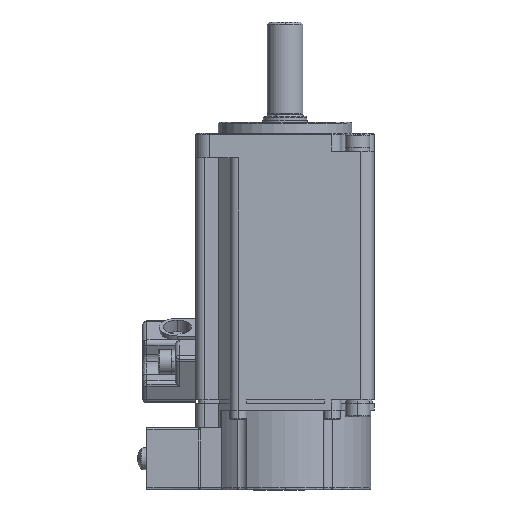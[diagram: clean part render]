
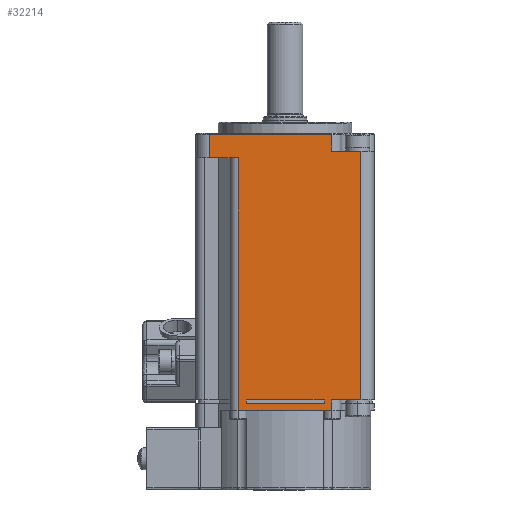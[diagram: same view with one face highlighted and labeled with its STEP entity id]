
A CAD part, left-side view. The second image highlights one B-rep face of the part: STEP entity #32214.
In plain terms, the highlighted planar face has unit normal (-1, 0, 0).
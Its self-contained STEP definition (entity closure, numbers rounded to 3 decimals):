
#595 = VERTEX_POINT ( 'NONE', #33683 ) ;
#745 = PLANE ( 'NONE',  #13067 ) ;
#1030 = EDGE_CURVE ( 'NONE', #19568, #11183, #25718, .T. ) ;
#1085 = EDGE_CURVE ( 'NONE', #22024, #595, #24155, .T. ) ;
#1090 = EDGE_CURVE ( 'NONE', #19568, #22024, #24087, .T. ) ;
#1495 = VECTOR ( 'NONE', #36649, 1000. ) ;
#1574 = LINE ( 'NONE', #2878, #1495 ) ;
#2215 = CARTESIAN_POINT ( 'NONE',  ( -20., -10.5, 24.9 ) ) ;
#2878 = CARTESIAN_POINT ( 'NONE',  ( -20., 12.5, -37. ) ) ;
#2906 = VERTEX_POINT ( 'NONE', #29832 ) ;
#3241 = ORIENTED_EDGE ( 'NONE', *, *, #26807, .T. ) ;
#3697 = EDGE_LOOP ( 'NONE', ( #8447, #17979, #20319, #31470 ) ) ;
#4952 = CARTESIAN_POINT ( 'NONE',  ( -20., 17., 19.6 ) ) ;
#5148 = DIRECTION ( 'NONE',  ( 0., 1., 0. ) ) ;
#5360 = ORIENTED_EDGE ( 'NONE', *, *, #28280, .T. ) ;
#5420 = VERTEX_POINT ( 'NONE', #2215 ) ;
#5878 = ORIENTED_EDGE ( 'NONE', *, *, #1085, .F. ) ;
#7411 = DIRECTION ( 'NONE',  ( 0., 1., 0. ) ) ;
#7550 = DIRECTION ( 'NONE',  ( 0., 0., 1. ) ) ;
#7894 = ORIENTED_EDGE ( 'NONE', *, *, #1090, .F. ) ;
#8447 = ORIENTED_EDGE ( 'NONE', *, *, #27132, .T. ) ;
#8714 = DIRECTION ( 'NONE',  ( 0., 0., -1. ) ) ;
#8759 = CARTESIAN_POINT ( 'NONE',  ( -20., -10.5, -35.5 ) ) ;
#9646 = CARTESIAN_POINT ( 'NONE',  ( -20., 12.5, 0. ) ) ;
#9825 = ORIENTED_EDGE ( 'NONE', *, *, #26598, .T. ) ;
#10153 = DIRECTION ( 'NONE',  ( 0., 0., -1. ) ) ;
#10181 = EDGE_LOOP ( 'NONE', ( #5360, #5878, #7894, #16313, #18442, #24960, #26193, #29493, #9825, #3241 ) ) ;
#10524 = CARTESIAN_POINT ( 'NONE',  ( -20., -10.5, 0. ) ) ;
#10715 = CARTESIAN_POINT ( 'NONE',  ( -20., -10.5, -34.7 ) ) ;
#11183 = VERTEX_POINT ( 'NONE', #14181 ) ;
#11983 = CARTESIAN_POINT ( 'NONE',  ( -20., 12.5, 19.6 ) ) ;
#12484 = DIRECTION ( 'NONE',  ( 0., -1., 0. ) ) ;
#12739 = CARTESIAN_POINT ( 'NONE',  ( -20., 10.5, -37. ) ) ;
#12802 = CARTESIAN_POINT ( 'NONE',  ( -20., 8.75, 0. ) ) ;
#13067 = AXIS2_PLACEMENT_3D ( 'NONE', #9646, #29570, #12484 ) ;
#13198 = CARTESIAN_POINT ( 'NONE',  ( -20., 12.5, 21.1 ) ) ;
#13311 = DIRECTION ( 'NONE',  ( 0., 0., -1. ) ) ;
#13706 = CARTESIAN_POINT ( 'NONE',  ( -20., 8.75, -34.7 ) ) ;
#14116 = VERTEX_POINT ( 'NONE', #12739 ) ;
#14181 = CARTESIAN_POINT ( 'NONE',  ( -20., -17., 21.1 ) ) ;
#14531 = VERTEX_POINT ( 'NONE', #4952 ) ;
#14858 = DIRECTION ( 'NONE',  ( 0., -1., 0. ) ) ;
#15656 = CARTESIAN_POINT ( 'NONE',  ( -20., -17., -34.7 ) ) ;
#16096 = DIRECTION ( 'NONE',  ( 0., 1., 0. ) ) ;
#16313 = ORIENTED_EDGE ( 'NONE', *, *, #1030, .T. ) ;
#16564 = CARTESIAN_POINT ( 'NONE',  ( -20., -8.75, -35.5 ) ) ;
#16842 = VERTEX_POINT ( 'NONE', #16564 ) ;
#17979 = ORIENTED_EDGE ( 'NONE', *, *, #27175, .T. ) ;
#18442 = ORIENTED_EDGE ( 'NONE', *, *, #26279, .T. ) ;
#18681 = CARTESIAN_POINT ( 'NONE',  ( -20., 10.5, 0. ) ) ;
#19568 = VERTEX_POINT ( 'NONE', #15656 ) ;
#20319 = ORIENTED_EDGE ( 'NONE', *, *, #26869, .T. ) ;
#20632 = CARTESIAN_POINT ( 'NONE',  ( -20., 8.75, -35.5 ) ) ;
#21726 = VECTOR ( 'NONE', #30110, 1000. ) ;
#21857 = LINE ( 'NONE', #27274, #21726 ) ;
#22007 = VECTOR ( 'NONE', #32433, 1000. ) ;
#22024 = VERTEX_POINT ( 'NONE', #10715 ) ;
#22371 = LINE ( 'NONE', #12802, #22007 ) ;
#23030 = VERTEX_POINT ( 'NONE', #34723 ) ;
#23981 = VECTOR ( 'NONE', #7411, 1000. ) ;
#24087 = LINE ( 'NONE', #24193, #23981 ) ;
#24090 = VECTOR ( 'NONE', #28678, 1000. ) ;
#24155 = LINE ( 'NONE', #8759, #24191 ) ;
#24191 = VECTOR ( 'NONE', #8714, 1000. ) ;
#24193 = CARTESIAN_POINT ( 'NONE',  ( -20., 0., -34.7 ) ) ;
#24303 = LINE ( 'NONE', #25826, #24090 ) ;
#24960 = ORIENTED_EDGE ( 'NONE', *, *, #26324, .T. ) ;
#25113 = CARTESIAN_POINT ( 'NONE',  ( -20., 12.5, 24.9 ) ) ;
#25363 = DIRECTION ( 'NONE',  ( 0., 0., -1. ) ) ;
#25475 = VECTOR ( 'NONE', #30417, 1000. ) ;
#25718 = LINE ( 'NONE', #31835, #25475 ) ;
#25826 = CARTESIAN_POINT ( 'NONE',  ( -20., 12.5, -35.5 ) ) ;
#26193 = ORIENTED_EDGE ( 'NONE', *, *, #26379, .T. ) ;
#26279 = EDGE_CURVE ( 'NONE', #11183, #23030, #33527, .T. ) ;
#26324 = EDGE_CURVE ( 'NONE', #23030, #5420, #33337, .T. ) ;
#26345 = VECTOR ( 'NONE', #13311, 1000. ) ;
#26374 = VERTEX_POINT ( 'NONE', #13706 ) ;
#26379 = EDGE_CURVE ( 'NONE', #5420, #2906, #32614, .T. ) ;
#26435 = EDGE_CURVE ( 'NONE', #2906, #14531, #32382, .T. ) ;
#26484 = LINE ( 'NONE', #33047, #26345 ) ;
#26598 = EDGE_CURVE ( 'NONE', #14531, #27348, #29000, .T. ) ;
#26807 = EDGE_CURVE ( 'NONE', #27348, #14116, #27248, .T. ) ;
#26869 = EDGE_CURVE ( 'NONE', #27380, #16842, #26484, .T. ) ;
#27031 = EDGE_CURVE ( 'NONE', #16842, #29221, #24303, .T. ) ;
#27132 = EDGE_CURVE ( 'NONE', #29221, #26374, #22371, .T. ) ;
#27175 = EDGE_CURVE ( 'NONE', #26374, #27380, #21857, .T. ) ;
#27196 = FACE_BOUND ( 'NONE', #3697, .T. ) ;
#27248 = LINE ( 'NONE', #18681, #27493 ) ;
#27274 = CARTESIAN_POINT ( 'NONE',  ( -20., 12.5, -34.7 ) ) ;
#27348 = VERTEX_POINT ( 'NONE', #36618 ) ;
#27380 = VERTEX_POINT ( 'NONE', #34095 ) ;
#27486 = FACE_OUTER_BOUND ( 'NONE', #10181, .T. ) ;
#27493 = VECTOR ( 'NONE', #10153, 1000. ) ;
#28280 = EDGE_CURVE ( 'NONE', #14116, #595, #1574, .T. ) ;
#28678 = DIRECTION ( 'NONE',  ( 0., 1., 0. ) ) ;
#28795 = VECTOR ( 'NONE', #14858, 1000. ) ;
#29000 = LINE ( 'NONE', #11983, #28795 ) ;
#29221 = VERTEX_POINT ( 'NONE', #20632 ) ;
#29493 = ORIENTED_EDGE ( 'NONE', *, *, #26435, .T. ) ;
#29570 = DIRECTION ( 'NONE',  ( -1., 0., 0. ) ) ;
#29832 = CARTESIAN_POINT ( 'NONE',  ( -20., 17., 24.9 ) ) ;
#30110 = DIRECTION ( 'NONE',  ( 0., -1., 0. ) ) ;
#30417 = DIRECTION ( 'NONE',  ( 0., 0., 1. ) ) ;
#30977 = CARTESIAN_POINT ( 'NONE',  ( -20., 17., 0. ) ) ;
#31470 = ORIENTED_EDGE ( 'NONE', *, *, #27031, .T. ) ;
#31835 = CARTESIAN_POINT ( 'NONE',  ( -20., -17., 0. ) ) ;
#32214 = ADVANCED_FACE ( 'NONE', ( #27196, #27486 ), #745, .T. ) ;
#32239 = VECTOR ( 'NONE', #25363, 1000. ) ;
#32382 = LINE ( 'NONE', #30977, #32239 ) ;
#32413 = VECTOR ( 'NONE', #5148, 1000. ) ;
#32433 = DIRECTION ( 'NONE',  ( 0., 0., 1. ) ) ;
#32614 = LINE ( 'NONE', #25113, #32413 ) ;
#33047 = CARTESIAN_POINT ( 'NONE',  ( -20., -8.75, 0. ) ) ;
#33241 = VECTOR ( 'NONE', #7550, 1000. ) ;
#33337 = LINE ( 'NONE', #10524, #33241 ) ;
#33443 = VECTOR ( 'NONE', #16096, 1000. ) ;
#33527 = LINE ( 'NONE', #13198, #33443 ) ;
#33683 = CARTESIAN_POINT ( 'NONE',  ( -20., -10.5, -37. ) ) ;
#34095 = CARTESIAN_POINT ( 'NONE',  ( -20., -8.75, -34.7 ) ) ;
#34723 = CARTESIAN_POINT ( 'NONE',  ( -20., -10.5, 21.1 ) ) ;
#36618 = CARTESIAN_POINT ( 'NONE',  ( -20., 10.5, 19.6 ) ) ;
#36649 = DIRECTION ( 'NONE',  ( 0., -1., 0. ) ) ;
